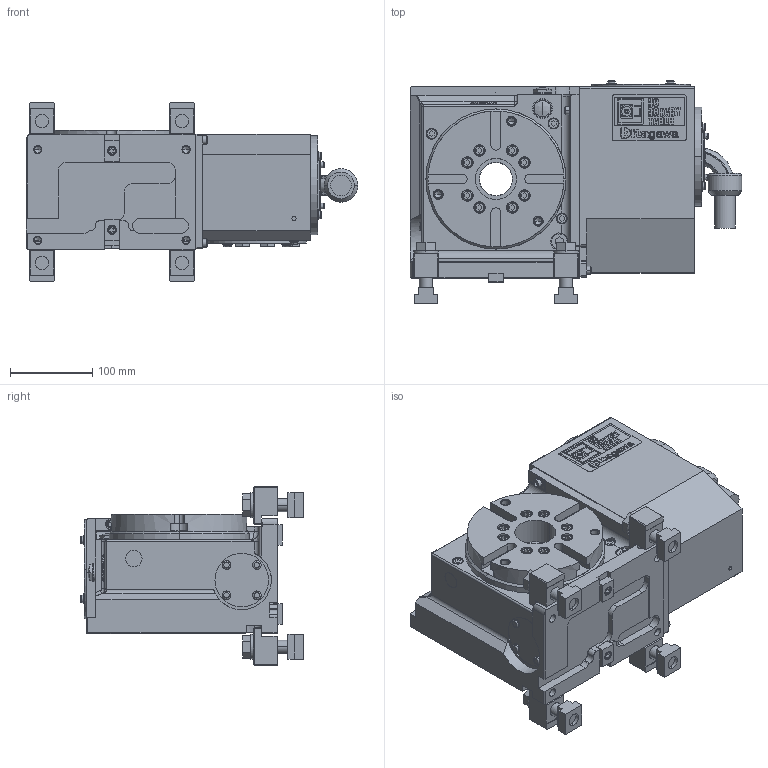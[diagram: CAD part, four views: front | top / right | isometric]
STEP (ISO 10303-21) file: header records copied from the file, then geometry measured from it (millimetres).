
FILE_DESCRIPTION (( 'STEP AP214' ), '1' );
FILE_NAME ('TMX160BV.STEP', '2019-11-07T05:44:24', ( '' ), ( '' ), 'SwSTEP 2.0', 'SolidWorks 2017', '' );
FILE_SCHEMA (( 'AUTOMOTIVE_DESIGN' ));
Length unit declared in the file: millimetre
Products named in the file (10): 働乕僽儖N29ZSZ2562; コネクタプレート(61E4513331); 僇僶乕丂俹(61E4458212)MR160LAF01; モータケース(図番無し)TMX160BV00; 儂儞僞僀ASSY(61E1121380)TMX160B01; TMX160BV; CLAMPING PARTS(61E430436); TMX160BV00儂儞僞僀; キタガワシール; SMC KQ2E08-02
Assembly tree (15 placements, depth 3):
  TMX160BV
    TMX160BV00儂儞僞僀
      儂儞僞僀ASSY(61E1121380)TMX160B01
      モータケース(図番無し)TMX160BV00
      僇僶乕丂俹(61E4458212)MR160LAF01  x2
      コネクタプレート(61E4513331)
      働乕僽儖N29ZSZ2562
      SMC KQ2E08-02  x3
      キタガワシール
    CLAMPING PARTS(61E430436)  x4
Bounding box: 402.4 x 270.7 x 218 mm (x, y, z)
Volume: 9684779.4 mm3; surface area: 649085.1 mm2
Topology: 14 solids, 14 shells, 3169 faces, 8224 edges, 5361 vertices
Faces by surface type: plane 2295, cylinder 650, cone 156, torus 50, bspline 11, sphere 7
Entity records: 101787 total; most frequent: CARTESIAN_POINT 16711, ORIENTED_EDGE 15220, DIRECTION 14811, EDGE_CURVE 7610, VECTOR 6139, LINE 6139, VERTEX_POINT 5009, AXIS2_PLACEMENT_3D 4336
